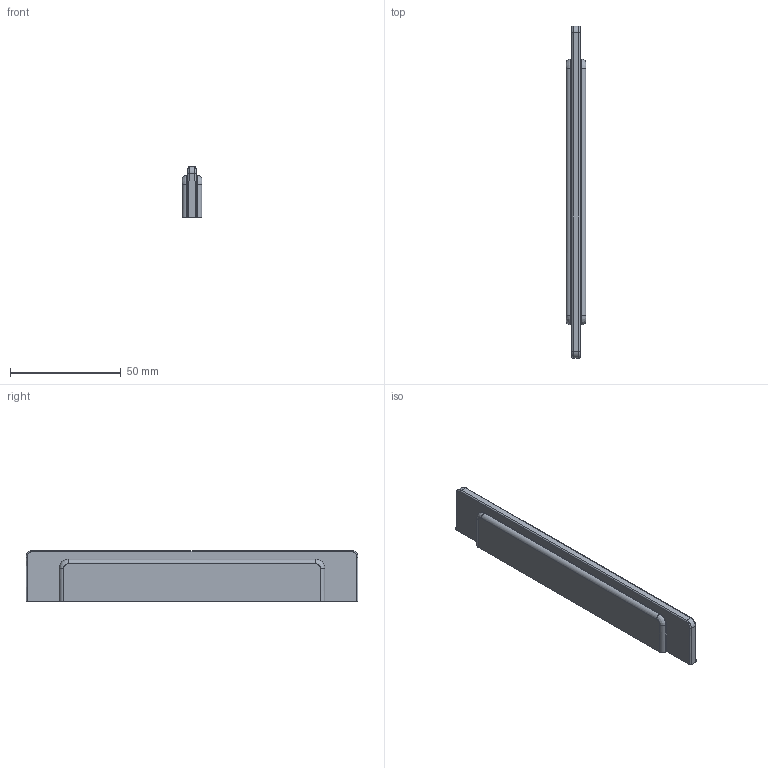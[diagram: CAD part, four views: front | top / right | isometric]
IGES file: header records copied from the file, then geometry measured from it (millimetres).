
Start section: C
Global section: file name: 8187-150.igs; native system: By Siemens PLM Incorporated; preprocessor: XPlus GENERIC/IGES 16.0.42; author: Author; organization: Title; date: 20231119.093347; units: millimetre
Bounding box: 9 x 150 x 23 mm (x, y, z)
Surface area: 15395.9 mm2 (no closed solid volume)
Topology: 0 solids, 0 shells, 105 faces, 552 edges, 552 vertices
Faces by surface type: bspline 105
